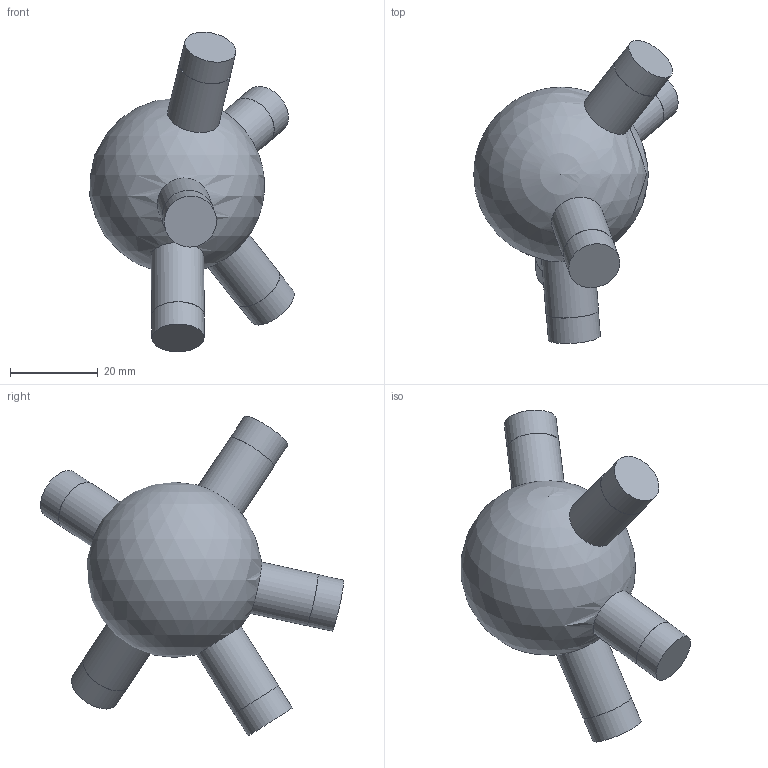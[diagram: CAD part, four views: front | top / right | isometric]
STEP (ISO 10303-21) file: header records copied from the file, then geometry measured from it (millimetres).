
FILE_DESCRIPTION(('Open CASCADE Model'),'2;1');
FILE_NAME('Open CASCADE Shape Model','2026-10-21T12:47:57',('Author'),( 'Open CASCADE'),'Open CASCADE STEP processor 7.9','Open CASCADE 7.9' ,'Unknown');
FILE_SCHEMA(('AUTOMOTIVE_DESIGN { 1 0 10303 214 1 1 1 1 }'));
Length unit declared in the file: millimetre
Products named in the file (1): Open CASCADE STEP translator 7.9 93
Bounding box: 46.61 x 69.14 x 72.93 mm (x, y, z)
Volume: 44467 mm3; surface area: 8762.3 mm2
Topology: 1 solids, 1 shells, 21 faces, 33 edges, 22 vertices
Faces by surface type: cylinder 10, plane 10, sphere 1
Full cylindrical faces by diameter (mm): 11.9 x5, 12 x5
Entity records: 1199 total; most frequent: CARTESIAN_POINT 474, DIRECTION 149, ORIENTED_EDGE 60, PCURVE 60, DEFINITIONAL_REPRESENTATION 60, LINE 50, VECTOR 50, AXIS2_PLACEMENT_3D 42
